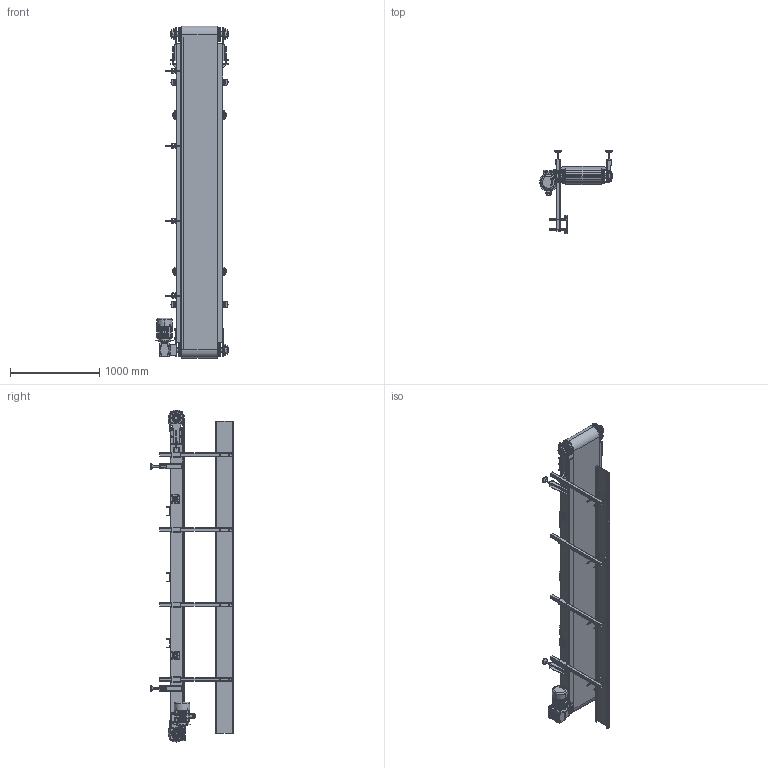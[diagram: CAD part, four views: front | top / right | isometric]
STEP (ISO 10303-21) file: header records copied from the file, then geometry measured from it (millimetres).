
FILE_DESCRIPTION(/* description */ (''),/* implementation_level */ '2;1');
FILE_NAME(/* name */ 'beltconveyor_a014_w400_l3700.stp',/* time_stamp */ '2024-12-15T14:22:18+08:00',/* author */ (''),/* organization */ (''),/* preprocessor_version */ 'ST-DEVELOPER v16.7',/* originating_system */ 'SIEMENS PLM Software NX 12.0',/* authorisation */ '');
FILE_SCHEMA (('AUTOMOTIVE_DESIGN { 1 0 10303 214 3 1 1 1 }'));
Products named in the file (50): 轴承套_063_25.step-1; RV025-090_063.step-1; PC-RV法兰_071_063.step-1; 输出空心轴_063_25.step-1; Y3_SCZ-1-1; Y3_FZ-1-1; Y3_B5_FL-1-1; Y3_JZ-1-1; Y3_JXH-1-1; 减速机连接板-1; 传送带滚筒通轴; 传送带滚筒通轴 - 电机; 传送带滚筒端盖; 传送带滚筒通轴 - 小; 传送带滚筒端盖 - 80; 传送带滚筒圆钢; 传送带支腿板件; 地脚板螺母; 调节地脚; 小带-1; 小传送带骨架-1; 传送带袋挡板; GB／T41-20001型六角螺母C级M
12-1; GB／T5781-2000六角头螺栓全螺纹C
级M10×35-1; 轴承固定板螺母-调整-1; 滑到固定条槽-1; GB／T93-1987标准型弹性垫圈(
装配)10×2．6-1; 轴承固定板螺母-1; 调整支撑板-1; 轴承固定板-1; 调整螺母板-1; 传送带横梁; 轴承固定板固定端-1; GB／T7810-1995带方形座轴承U
CFU208; GB／T7810-1995带方形座轴承U
CFU205; GB／T15389-1994螺杆M12×200-1; 传送带袋挡板-连接板; GB／T5781-2000六角头螺栓全螺纹C
级M10×40-1; GB／T95-2002平垫圈C级1
0×2-1; 传送带伸缩管夹件 ...
Assembly tree (171 placements, depth 4):
  beltconveyor_a014_w400_l3700
    方钢40x3-800_默认_按加工_  x4
    传送带伸缩管夹件  x4
    地脚板件焊件  x4
      调节地脚
      地脚板螺母
      传送带支腿板件
    GB／T95-2002平垫圈C级1
0×2-1  x10
    GB／T5781-2000六角头螺栓全螺纹C
级M10×40-1  x6
    传送带袋挡板-连接板  x4
    GB／T15389-1994螺杆M12×200-1  x10
    GB／T7810-1995带方形座轴承U
CFU205  x4
    GB／T7810-1995带方形座轴承U
CFU208  x4
    轴承固定板固定端-1
    传送带横梁  x3
    调整螺母板-1  x2
    RV63-80m-1
      59_B5_Y3-80M2-2-1
        Y3_JXH-1-1
        Y3_JZ-1-1
        Y3_B5_FL-1-1
        Y3_FZ-1-1
        Y3_SCZ-1-1
      3_063_063_25_FA_P63B5_KZ_b01-1
        输出空心轴_063_25.step-1
        PC-RV法兰_071_063.step-1
        RV025-090_063.step-1
        轴承套_063_25.step-1
    轴承固定板-1  x2
    传送带滚筒-100  x2
      传送带滚筒圆钢
      传送带滚筒端盖 - 80
      传送带滚筒通轴 - 小
    调整支撑板-1  x2
    轴承固定板螺母-1
    GB／T93-1987标准型弹性垫圈(
装配)10×2．6-1  x10
    滑到固定条槽-1  x4
    轴承固定板螺母-调整-1
    GB／T5781-2000六角头螺栓全螺纹C
级M10×35-1  x4
    传送带滚筒
      传送带滚筒圆钢  x20
      传送带滚筒端盖  x3
      传送带滚筒通轴 - 电机
    GB／T41-20001型六角螺母C级M
12-1  x2
    传送带滚筒-130
      传送带滚筒圆钢  x20
      传送带滚筒端盖  x3
      传送带滚筒通轴
    传送带袋挡板
    电机连接板焊件-1
      减速机连接板-1
      轴承固定板固定端-1
    小传送带骨架-1
    小带-1
Bounding box: 817.2 x 928.59 x 3721.37 mm (x, y, z)
Volume: 71853242.7 mm3; surface area: 19689546.9 mm2
Topology: 220 solids, 220 shells, 6064 faces, 15390 edges, 10078 vertices
Faces by surface type: plane 2671, cylinder 2506, cone 406, extrusion 369, torus 80, sphere 32
Entity records: 126032 total; most frequent: CARTESIAN_POINT 30305, ORIENTED_EDGE 19472, DIRECTION 18505, EDGE_CURVE 9736, VERTEX_POINT 6413, AXIS2_PLACEMENT_3D 6395, VECTOR 5715, LINE 5346
